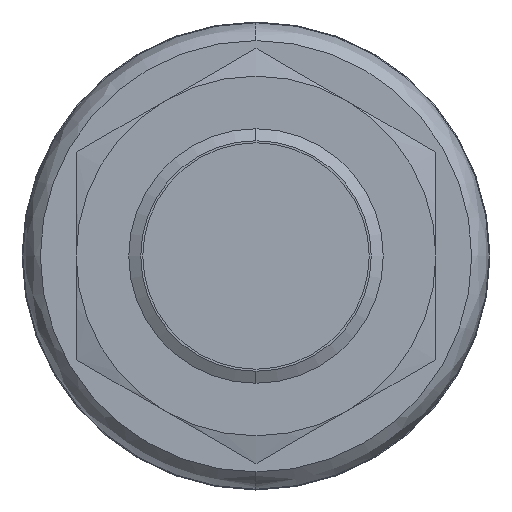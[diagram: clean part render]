
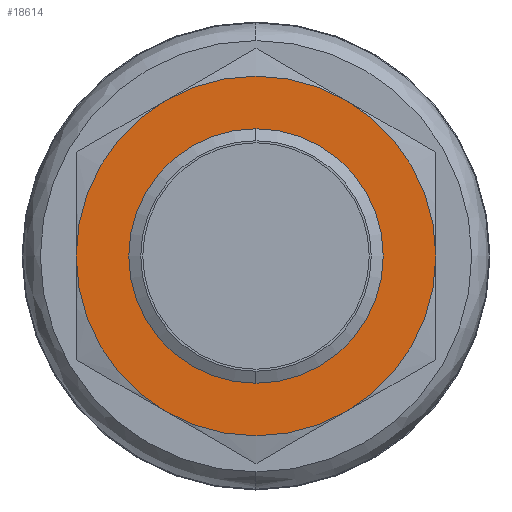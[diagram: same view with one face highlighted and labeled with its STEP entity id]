
A CAD part, left-side view. The second image highlights one B-rep face of the part: STEP entity #18614.
In plain terms, the highlighted planar face has unit normal (-1, 0, 0).
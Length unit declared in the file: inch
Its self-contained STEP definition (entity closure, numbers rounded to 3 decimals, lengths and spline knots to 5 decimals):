
#16810 = CARTESIAN_POINT ( 'NONE',  ( 8.8781, -0.16675, 0.01652 ) ) ;
#17071 = ORIENTED_EDGE ( 'NONE', *, *, #1179, .F. ) ;
#1070 = FACE_BOUND ( 'NONE', #18321, .T. ) ;
#1071 = FACE_OUTER_BOUND ( 'NONE', #5289, .T. ) ;
#1078 = PLANE ( 'NONE',  #1079 ) ;
#1079 = AXIS2_PLACEMENT_3D ( 'NONE', #1080, #1081, #1082 ) ;
#1080 = CARTESIAN_POINT ( 'NONE',  ( 8.8781, 0., 0.30534 ) ) ;
#1081 = DIRECTION ( 'NONE',  ( 1., 0., 0. ) ) ;
#1082 = DIRECTION ( 'NONE',  ( 0., 0., -1. ) ) ;
#1179 = EDGE_CURVE ( 'NONE', #3586, #3655, #5464, .T. ) ;
#17688 = ORIENTED_EDGE ( 'NONE', *, *, #3739, .F. ) ;
#18321 = EDGE_LOOP ( 'NONE', ( #17688, #17071 ) ) ;
#18421 = CIRCLE ( 'NONE', #18422, 0.3335 ) ;
#18422 = AXIS2_PLACEMENT_3D ( 'NONE', #18423, #18424, #18425 ) ;
#18423 = CARTESIAN_POINT ( 'NONE',  ( 8.8781, 0., 0.30534 ) ) ;
#18424 = DIRECTION ( 'NONE',  ( 1., 0., 0. ) ) ;
#18425 = DIRECTION ( 'NONE',  ( 0., 1., 0. ) ) ;
#18614 = ADVANCED_FACE ( 'NONE', ( #1070, #1071 ), #1078, .F. ) ;
#2747 = VERTEX_POINT ( 'NONE', #6605 ) ;
#3586 = VERTEX_POINT ( 'NONE', #8001 ) ;
#3655 = VERTEX_POINT ( 'NONE', #8167 ) ;
#3712 = ORIENTED_EDGE ( 'NONE', *, *, #12660, .F. ) ;
#3739 = EDGE_CURVE ( 'NONE', #3655, #3586, #8330, .T. ) ;
#3761 = VERTEX_POINT ( 'NONE', #8394 ) ;
#3839 = EDGE_CURVE ( 'NONE', #3761, #6294, #8629, .T. ) ;
#3896 = ORIENTED_EDGE ( 'NONE', *, *, #5001, .F. ) ;
#4057 = ORIENTED_EDGE ( 'NONE', *, *, #3839, .F. ) ;
#4253 = ORIENTED_EDGE ( 'NONE', *, *, #10081, .F. ) ;
#4425 = ORIENTED_EDGE ( 'NONE', *, *, #7627, .F. ) ;
#4472 = VERTEX_POINT ( 'NONE', #10139 ) ;
#4606 = ORIENTED_EDGE ( 'NONE', *, *, #15966, .F. ) ;
#5001 = EDGE_CURVE ( 'NONE', #8075, #3761, #10834, .T. ) ;
#5289 = EDGE_LOOP ( 'NONE', ( #4606, #4425, #4253, #4057, #3896, #3712 ) ) ;
#5464 = CIRCLE ( 'NONE', #5465, 0.212 ) ;
#5465 = AXIS2_PLACEMENT_3D ( 'NONE', #5466, #5467, #5472 ) ;
#5466 = CARTESIAN_POINT ( 'NONE',  ( 8.8781, 0., 0.30534 ) ) ;
#5467 = DIRECTION ( 'NONE',  ( -1., 0., 0. ) ) ;
#5472 = DIRECTION ( 'NONE',  ( 0., 0., -1. ) ) ;
#6294 = VERTEX_POINT ( 'NONE', #11737 ) ;
#6605 = CARTESIAN_POINT ( 'NONE',  ( 8.8781, -0.16675, 0.59416 ) ) ;
#7627 = EDGE_CURVE ( 'NONE', #2747, #4472, #12650, .T. ) ;
#8001 = CARTESIAN_POINT ( 'NONE',  ( 8.8781, 0., 0.51734 ) ) ;
#8075 = VERTEX_POINT ( 'NONE', #12992 ) ;
#8167 = CARTESIAN_POINT ( 'NONE',  ( 8.8781, 0., 0.09334 ) ) ;
#8330 = CIRCLE ( 'NONE', #8331, 0.212 ) ;
#8331 = AXIS2_PLACEMENT_3D ( 'NONE', #8332, #8333, #8334 ) ;
#8332 = CARTESIAN_POINT ( 'NONE',  ( 8.8781, 0., 0.30534 ) ) ;
#8333 = DIRECTION ( 'NONE',  ( -1., 0., 0. ) ) ;
#8334 = DIRECTION ( 'NONE',  ( 0., 0., -1. ) ) ;
#8394 = CARTESIAN_POINT ( 'NONE',  ( 8.8781, 0.3335, 0.30534 ) ) ;
#8629 = CIRCLE ( 'NONE', #8634, 0.3335 ) ;
#8634 = AXIS2_PLACEMENT_3D ( 'NONE', #8635, #8636, #8637 ) ;
#8635 = CARTESIAN_POINT ( 'NONE',  ( 8.8781, 0., 0.30534 ) ) ;
#8636 = DIRECTION ( 'NONE',  ( 1., 0., 0. ) ) ;
#8637 = DIRECTION ( 'NONE',  ( 0., 1., 0. ) ) ;
#10081 = EDGE_CURVE ( 'NONE', #6294, #2747, #14361, .T. ) ;
#10139 = CARTESIAN_POINT ( 'NONE',  ( 8.8781, -0.3335, 0.30534 ) ) ;
#10834 = CIRCLE ( 'NONE', #10835, 0.3335 ) ;
#10835 = AXIS2_PLACEMENT_3D ( 'NONE', #10836, #10837, #10838 ) ;
#10836 = CARTESIAN_POINT ( 'NONE',  ( 8.8781, 0., 0.30534 ) ) ;
#10837 = DIRECTION ( 'NONE',  ( 1., 0., 0. ) ) ;
#10838 = DIRECTION ( 'NONE',  ( 0., 1., 0. ) ) ;
#11737 = CARTESIAN_POINT ( 'NONE',  ( 8.8781, 0.16675, 0.59416 ) ) ;
#12650 = CIRCLE ( 'NONE', #12651, 0.3335 ) ;
#12651 = AXIS2_PLACEMENT_3D ( 'NONE', #12652, #12653, #12654 ) ;
#12652 = CARTESIAN_POINT ( 'NONE',  ( 8.8781, 0., 0.30534 ) ) ;
#12653 = DIRECTION ( 'NONE',  ( 1., 0., 0. ) ) ;
#12654 = DIRECTION ( 'NONE',  ( 0., 1., 0. ) ) ;
#12660 = EDGE_CURVE ( 'NONE', #13788, #8075, #15950, .T. ) ;
#12992 = CARTESIAN_POINT ( 'NONE',  ( 8.8781, 0.16675, 0.01652 ) ) ;
#13788 = VERTEX_POINT ( 'NONE', #16810 ) ;
#14361 = CIRCLE ( 'NONE', #14362, 0.3335 ) ;
#14362 = AXIS2_PLACEMENT_3D ( 'NONE', #14363, #14364, #14365 ) ;
#14363 = CARTESIAN_POINT ( 'NONE',  ( 8.8781, 0., 0.30534 ) ) ;
#14364 = DIRECTION ( 'NONE',  ( 1., 0., 0. ) ) ;
#14365 = DIRECTION ( 'NONE',  ( 0., 1., 0. ) ) ;
#15950 = CIRCLE ( 'NONE', #15951, 0.3335 ) ;
#15951 = AXIS2_PLACEMENT_3D ( 'NONE', #15952, #15953, #15954 ) ;
#15952 = CARTESIAN_POINT ( 'NONE',  ( 8.8781, 0., 0.30534 ) ) ;
#15953 = DIRECTION ( 'NONE',  ( 1., 0., 0. ) ) ;
#15954 = DIRECTION ( 'NONE',  ( 0., 1., 0. ) ) ;
#15966 = EDGE_CURVE ( 'NONE', #4472, #13788, #18421, .T. ) ;
